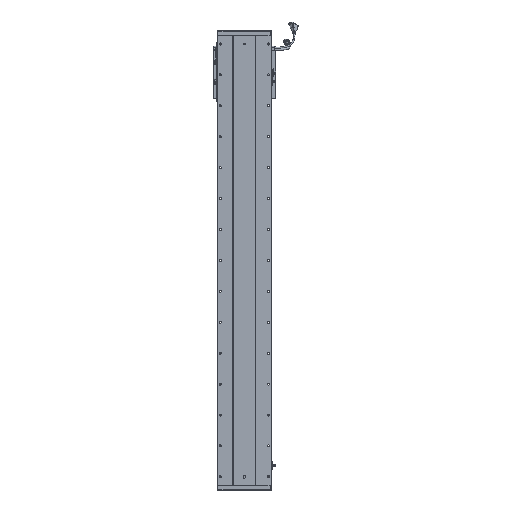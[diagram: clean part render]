
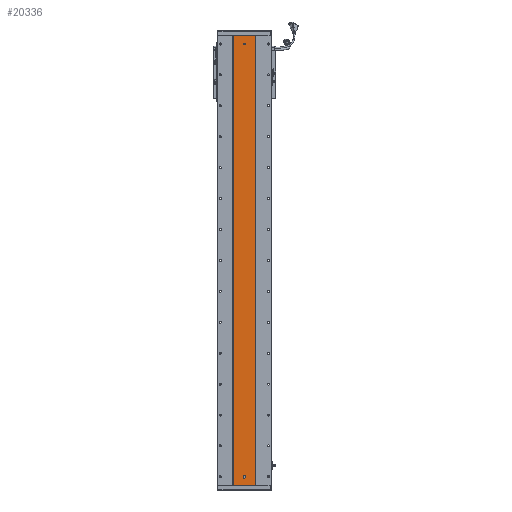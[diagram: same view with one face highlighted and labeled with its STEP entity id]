
A CAD part, front view. The second image highlights one B-rep face of the part: STEP entity #20336.
In plain terms, the highlighted planar face has unit normal (0, -1, 0).
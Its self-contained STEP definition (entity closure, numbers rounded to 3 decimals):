
#2205 = ORIENTED_EDGE ( 'NONE', *, *, #39906, .F. ) ;
#2577 = EDGE_LOOP ( 'NONE', ( #66675, #16175, #5028, #14390, #27610 ) ) ;
#3624 = DIRECTION ( 'NONE',  ( 0., 0., -1. ) ) ;
#4962 = AXIS2_PLACEMENT_3D ( 'NONE', #70869, #38345, #30549 ) ;
#5028 = ORIENTED_EDGE ( 'NONE', *, *, #49803, .F. ) ;
#6714 = DIRECTION ( 'NONE',  ( 1., 0., 0. ) ) ;
#8848 = CARTESIAN_POINT ( 'NONE',  ( 3280.529, 1415.701, 27. ) ) ;
#8883 = ORIENTED_EDGE ( 'NONE', *, *, #86143, .F. ) ;
#10266 = EDGE_CURVE ( 'NONE', #39722, #42735, #50165, .T. ) ;
#10420 = LINE ( 'NONE', #68149, #39538 ) ;
#12028 = CARTESIAN_POINT ( 'NONE',  ( 3277.529, 1415.701, 30. ) ) ;
#14390 = ORIENTED_EDGE ( 'NONE', *, *, #98110, .F. ) ;
#14456 = VERTEX_POINT ( 'NONE', #65499 ) ;
#14483 = DIRECTION ( 'NONE',  ( 0., 0., -1. ) ) ;
#14616 = EDGE_CURVE ( 'NONE', #65484, #99460, #71242, .T. ) ;
#15327 = VECTOR ( 'NONE', #76297, 1000. ) ;
#16175 = ORIENTED_EDGE ( 'NONE', *, *, #89701, .F. ) ;
#18480 = CARTESIAN_POINT ( 'NONE',  ( 3316.311, 1415.701, 1457. ) ) ;
#18824 = VERTEX_POINT ( 'NONE', #84284 ) ;
#19729 = LINE ( 'NONE', #21945, #99762 ) ;
#20336 = ADVANCED_FACE ( 'NONE', ( #63596, #97436, #42960 ), #85741, .F. ) ;
#20538 = CARTESIAN_POINT ( 'NONE',  ( 3280.529, 1415.701, 1425.5 ) ) ;
#21945 = CARTESIAN_POINT ( 'NONE',  ( 3244.748, 1415.701, 1457. ) ) ;
#24299 = DIRECTION ( 'NONE',  ( 0., -1., 0. ) ) ;
#27357 = CARTESIAN_POINT ( 'NONE',  ( 3244.748, 1415.701, 1457. ) ) ;
#27610 = ORIENTED_EDGE ( 'NONE', *, *, #14616, .F. ) ;
#28889 = EDGE_CURVE ( 'NONE', #18824, #14456, #88584, .T. ) ;
#29053 = CARTESIAN_POINT ( 'NONE',  ( 3280.529, 1415.701, 30. ) ) ;
#30549 = DIRECTION ( 'NONE',  ( 0., 0., 1. ) ) ;
#30550 = CARTESIAN_POINT ( 'NONE',  ( 3244.748, 1415.701, 0. ) ) ;
#32412 = VERTEX_POINT ( 'NONE', #89790 ) ;
#35386 = DIRECTION ( 'NONE',  ( 0., 0., -1. ) ) ;
#36164 = ORIENTED_EDGE ( 'NONE', *, *, #71065, .F. ) ;
#38345 = DIRECTION ( 'NONE',  ( 0., 1., 0. ) ) ;
#39538 = VECTOR ( 'NONE', #45392, 1000. ) ;
#39722 = VERTEX_POINT ( 'NONE', #41921 ) ;
#39782 = CARTESIAN_POINT ( 'NONE',  ( 3283.529, 1415.701, 30. ) ) ;
#39906 = EDGE_CURVE ( 'NONE', #42735, #39722, #69094, .T. ) ;
#41316 = CARTESIAN_POINT ( 'NONE',  ( 3280.529, 1415.701, 24. ) ) ;
#41921 = CARTESIAN_POINT ( 'NONE',  ( 3280.529, 1415.701, 1431.5 ) ) ;
#42735 = VERTEX_POINT ( 'NONE', #20538 ) ;
#42960 = FACE_OUTER_BOUND ( 'NONE', #98264, .T. ) ;
#44438 = LINE ( 'NONE', #39782, #51723 ) ;
#45392 = DIRECTION ( 'NONE',  ( 0., 0., -1. ) ) ;
#46515 = CIRCLE ( 'NONE', #69799, 3. ) ;
#47162 = DIRECTION ( 'NONE',  ( 0., -1., 0. ) ) ;
#47590 = DIRECTION ( 'NONE',  ( 0., -1., 0. ) ) ;
#49803 = EDGE_CURVE ( 'NONE', #32412, #51185, #46515, .T. ) ;
#50165 = CIRCLE ( 'NONE', #90919, 3. ) ;
#50535 = ORIENTED_EDGE ( 'NONE', *, *, #10266, .F. ) ;
#51185 = VERTEX_POINT ( 'NONE', #12028 ) ;
#51723 = VECTOR ( 'NONE', #94592, 1000. ) ;
#51947 = CARTESIAN_POINT ( 'NONE',  ( 3280.529, 1415.701, 27. ) ) ;
#52252 = VERTEX_POINT ( 'NONE', #18480 ) ;
#52676 = CARTESIAN_POINT ( 'NONE',  ( 3280.529, 1415.701, 1428.5 ) ) ;
#54311 = AXIS2_PLACEMENT_3D ( 'NONE', #8848, #47162, #77988 ) ;
#55026 = DIRECTION ( 'NONE',  ( 0., 0., -1. ) ) ;
#56368 = VERTEX_POINT ( 'NONE', #82969 ) ;
#58916 = LINE ( 'NONE', #30550, #15327 ) ;
#59718 = DIRECTION ( 'NONE',  ( 0., -1., 0. ) ) ;
#61280 = AXIS2_PLACEMENT_3D ( 'NONE', #52676, #47590, #55026 ) ;
#61889 = ORIENTED_EDGE ( 'NONE', *, *, #68077, .T. ) ;
#62284 = DIRECTION ( 'NONE',  ( 0., 0., -1. ) ) ;
#63596 = FACE_BOUND ( 'NONE', #2577, .T. ) ;
#64299 = VECTOR ( 'NONE', #35386, 1000. ) ;
#65484 = VERTEX_POINT ( 'NONE', #41316 ) ;
#65499 = CARTESIAN_POINT ( 'NONE',  ( 3244.748, 1415.701, 0. ) ) ;
#65526 = VERTEX_POINT ( 'NONE', #95424 ) ;
#66203 = CARTESIAN_POINT ( 'NONE',  ( 3316.311, 1415.701, 1457. ) ) ;
#66675 = ORIENTED_EDGE ( 'NONE', *, *, #87734, .F. ) ;
#68077 = EDGE_CURVE ( 'NONE', #14456, #56368, #58916, .T. ) ;
#68149 = CARTESIAN_POINT ( 'NONE',  ( 3277.529, 1415.701, 30. ) ) ;
#69094 = CIRCLE ( 'NONE', #61280, 3. ) ;
#69799 = AXIS2_PLACEMENT_3D ( 'NONE', #29053, #75138, #14483 ) ;
#70869 = CARTESIAN_POINT ( 'NONE',  ( 3244.748, 1415.701, 1457. ) ) ;
#71065 = EDGE_CURVE ( 'NONE', #18824, #52252, #19729, .T. ) ;
#71242 = CIRCLE ( 'NONE', #54311, 3. ) ;
#73279 = CARTESIAN_POINT ( 'NONE',  ( 3283.529, 1415.701, 27. ) ) ;
#75138 = DIRECTION ( 'NONE',  ( 0., -1., 0. ) ) ;
#76297 = DIRECTION ( 'NONE',  ( 1., 0., 0. ) ) ;
#77988 = DIRECTION ( 'NONE',  ( 0., 0., -1. ) ) ;
#80451 = ORIENTED_EDGE ( 'NONE', *, *, #28889, .T. ) ;
#81267 = LINE ( 'NONE', #66203, #64299 ) ;
#82969 = CARTESIAN_POINT ( 'NONE',  ( 3316.311, 1415.701, 0. ) ) ;
#84284 = CARTESIAN_POINT ( 'NONE',  ( 3244.748, 1415.701, 1457. ) ) ;
#85325 = CARTESIAN_POINT ( 'NONE',  ( 3280.529, 1415.701, 1428.5 ) ) ;
#85741 = PLANE ( 'NONE',  #4962 ) ;
#86143 = EDGE_CURVE ( 'NONE', #52252, #56368, #81267, .T. ) ;
#86193 = VECTOR ( 'NONE', #3624, 1000. ) ;
#87734 = EDGE_CURVE ( 'NONE', #65526, #65484, #94403, .T. ) ;
#88584 = LINE ( 'NONE', #27357, #86193 ) ;
#89299 = EDGE_LOOP ( 'NONE', ( #2205, #50535 ) ) ;
#89701 = EDGE_CURVE ( 'NONE', #51185, #65526, #10420, .T. ) ;
#89790 = CARTESIAN_POINT ( 'NONE',  ( 3283.529, 1415.701, 30. ) ) ;
#89994 = AXIS2_PLACEMENT_3D ( 'NONE', #51947, #59718, #98970 ) ;
#90919 = AXIS2_PLACEMENT_3D ( 'NONE', #85325, #24299, #62284 ) ;
#94403 = CIRCLE ( 'NONE', #89994, 3. ) ;
#94592 = DIRECTION ( 'NONE',  ( 0., 0., 1. ) ) ;
#95424 = CARTESIAN_POINT ( 'NONE',  ( 3277.529, 1415.701, 27. ) ) ;
#97436 = FACE_BOUND ( 'NONE', #89299, .T. ) ;
#98110 = EDGE_CURVE ( 'NONE', #99460, #32412, #44438, .T. ) ;
#98264 = EDGE_LOOP ( 'NONE', ( #61889, #8883, #36164, #80451 ) ) ;
#98970 = DIRECTION ( 'NONE',  ( 0., 0., -1. ) ) ;
#99460 = VERTEX_POINT ( 'NONE', #73279 ) ;
#99762 = VECTOR ( 'NONE', #6714, 1000. ) ;
